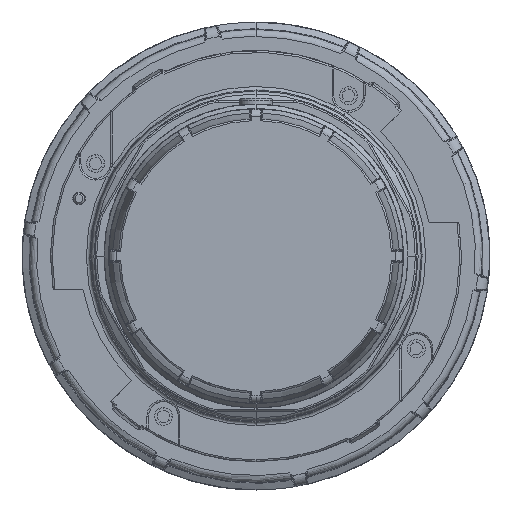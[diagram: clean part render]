
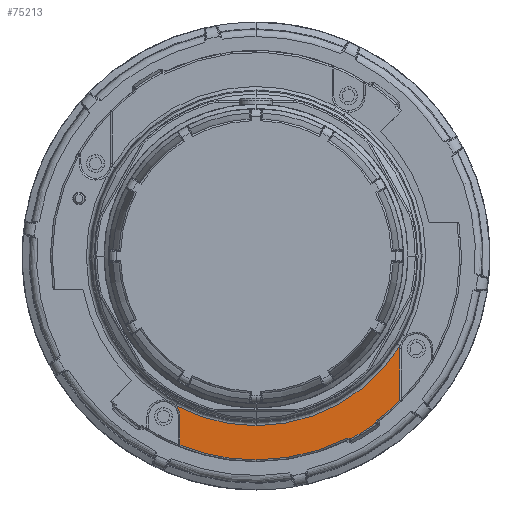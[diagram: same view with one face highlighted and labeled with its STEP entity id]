
A CAD part, front view. The second image highlights one B-rep face of the part: STEP entity #75213.
In plain terms, the highlighted planar face has unit normal (0, -1, 0).
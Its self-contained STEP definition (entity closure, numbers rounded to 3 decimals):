
#2304 = DIRECTION ( 'NONE',  ( 0., -1., 0. ) ) ;
#3329 = DIRECTION ( 'NONE',  ( 0., -1., 0. ) ) ;
#3797 = DIRECTION ( 'NONE',  ( 0., 0., -1. ) ) ;
#4226 = ORIENTED_EDGE ( 'NONE', *, *, #51097, .T. ) ;
#4499 = CARTESIAN_POINT ( 'NONE',  ( 104.517, 36.826, -847.65 ) ) ;
#5083 = AXIS2_PLACEMENT_3D ( 'NONE', #89767, #3329, #32307 ) ;
#5211 = CARTESIAN_POINT ( 'NONE',  ( 83.167, 36.826, -853.457 ) ) ;
#5373 = EDGE_CURVE ( 'NONE', #53689, #92844, #32498, .T. ) ;
#5801 = CARTESIAN_POINT ( 'NONE',  ( 138.192, 36.826, -846.738 ) ) ;
#5807 = DIRECTION ( 'NONE',  ( 0., 0., 1. ) ) ;
#6050 = CARTESIAN_POINT ( 'NONE',  ( 130.927, 36.826, -851.309 ) ) ;
#6216 = CARTESIAN_POINT ( 'NONE',  ( 149.551, 36.826, -826. ) ) ;
#6363 = CARTESIAN_POINT ( 'NONE',  ( 145.019, 36.829, -825.182 ) ) ;
#6377 = AXIS2_PLACEMENT_3D ( 'NONE', #6216, #53611, #37484 ) ;
#6555 = CIRCLE ( 'NONE', #5083, 57.25 ) ;
#7099 = CARTESIAN_POINT ( 'NONE',  ( 82.052, 36.829, -842.043 ) ) ;
#7939 = CIRCLE ( 'NONE', #62501, 57.25 ) ;
#8385 = B_SPLINE_CURVE_WITH_KNOTS ( 'NONE', 3,
 ( #42789, #70809, #19603, #5801 ),
 .UNSPECIFIED., .F., .F.,
 ( 4, 4 ),
 ( 0., 1. ),
 .UNSPECIFIED. ) ;
#10020 = CARTESIAN_POINT ( 'NONE',  ( 138.192, 36.826, -846.738 ) ) ;
#10781 = ORIENTED_EDGE ( 'NONE', *, *, #16995, .T. ) ;
#10885 = DIRECTION ( 'NONE',  ( 0., 0., -1. ) ) ;
#11165 = EDGE_CURVE ( 'NONE', #34497, #51771, #6555, .T. ) ;
#11248 = ORIENTED_EDGE ( 'NONE', *, *, #33750, .T. ) ;
#12799 = LINE ( 'NONE', #5211, #59539 ) ;
#13165 = DIRECTION ( 'NONE',  ( 0., -1., 0. ) ) ;
#13620 = DIRECTION ( 'NONE',  ( 0., 1., 0. ) ) ;
#14562 = DIRECTION ( 'NONE',  ( 0., 0., -1. ) ) ;
#14805 = B_SPLINE_CURVE_WITH_KNOTS ( 'NONE', 3,
 ( #56334, #49233, #6050, #92924 ),
 .UNSPECIFIED., .F., .F.,
 ( 4, 4 ),
 ( 0., 1. ),
 .UNSPECIFIED. ) ;
#14807 = AXIS2_PLACEMENT_3D ( 'NONE', #60291, #25171, #3797 ) ;
#16290 = VERTEX_POINT ( 'NONE', #89040 ) ;
#16995 = EDGE_CURVE ( 'NONE', #46493, #65040, #43334, .T. ) ;
#18091 = CARTESIAN_POINT ( 'NONE',  ( 138.279, 36.826, -846.235 ) ) ;
#18952 = FACE_OUTER_BOUND ( 'NONE', #46412, .T. ) ;
#18955 = B_SPLINE_CURVE_WITH_KNOTS ( 'NONE', 3,
 ( #10020, #69338, #83104, #18091 ),
 .UNSPECIFIED., .F., .F.,
 ( 4, 4 ),
 ( 0., 1. ),
 .UNSPECIFIED. ) ;
#19168 = DIRECTION ( 'NONE',  ( 0., 1., 0. ) ) ;
#19603 = CARTESIAN_POINT ( 'NONE',  ( 138.18, 36.826, -846.809 ) ) ;
#19889 = DIRECTION ( 'NONE',  ( 0., 1., 0. ) ) ;
#20889 = CARTESIAN_POINT ( 'NONE',  ( 104.517, 36.826, -800. ) ) ;
#21556 = CIRCLE ( 'NONE', #6377, 4.65 ) ;
#22748 = DIRECTION ( 'NONE',  ( 0., 0., -1. ) ) ;
#24135 = CARTESIAN_POINT ( 'NONE',  ( 104.517, 36.826, -857.25 ) ) ;
#24733 = CARTESIAN_POINT ( 'NONE',  ( 130.626, 36.826, -851.216 ) ) ;
#25171 = DIRECTION ( 'NONE',  ( 0., -1., 0. ) ) ;
#26205 = EDGE_CURVE ( 'NONE', #43919, #53689, #21556, .T. ) ;
#27328 = CIRCLE ( 'NONE', #80387, 57.25 ) ;
#28424 = ORIENTED_EDGE ( 'NONE', *, *, #49462, .T. ) ;
#29233 = EDGE_CURVE ( 'NONE', #65040, #16290, #12799, .T. ) ;
#31295 = VECTOR ( 'NONE', #5807, 1000. ) ;
#32307 = DIRECTION ( 'NONE',  ( 0., 0., -1. ) ) ;
#32498 = CIRCLE ( 'NONE', #67392, 47.65 ) ;
#33735 = CARTESIAN_POINT ( 'NONE',  ( 144.901, 36.826, -826. ) ) ;
#33750 = EDGE_CURVE ( 'NONE', #34159, #43919, #84624, .T. ) ;
#34070 = ORIENTED_EDGE ( 'NONE', *, *, #72686, .T. ) ;
#34159 = VERTEX_POINT ( 'NONE', #76908 ) ;
#34497 = VERTEX_POINT ( 'NONE', #24135 ) ;
#35043 = ORIENTED_EDGE ( 'NONE', *, *, #11165, .T. ) ;
#37357 = EDGE_CURVE ( 'NONE', #49497, #40763, #8385, .T. ) ;
#37484 = DIRECTION ( 'NONE',  ( 0., 0., -1. ) ) ;
#38988 = CARTESIAN_POINT ( 'NONE',  ( 130.302, 36.826, -851.115 ) ) ;
#39318 = CARTESIAN_POINT ( 'NONE',  ( 130.788, 36.826, -851.266 ) ) ;
#40763 = VERTEX_POINT ( 'NONE', #86891 ) ;
#41650 = VERTEX_POINT ( 'NONE', #73154 ) ;
#42789 = CARTESIAN_POINT ( 'NONE',  ( 138.155, 36.826, -846.952 ) ) ;
#43334 = CIRCLE ( 'NONE', #93429, 4.65 ) ;
#43582 = CIRCLE ( 'NONE', #14807, 57.758 ) ;
#43919 = VERTEX_POINT ( 'NONE', #33735 ) ;
#45888 = VERTEX_POINT ( 'NONE', #50512 ) ;
#46412 = EDGE_LOOP ( 'NONE', ( #89735, #58599, #4226, #10781, #77993, #34070, #35043, #88230, #86424, #28424, #47400, #84349, #85538, #11248 ) ) ;
#46493 = VERTEX_POINT ( 'NONE', #7099 ) ;
#47400 = ORIENTED_EDGE ( 'NONE', *, *, #37357, .T. ) ;
#48740 = DIRECTION ( 'NONE',  ( 0., 0., -1. ) ) ;
#48859 = DIRECTION ( 'NONE',  ( 0., 0., -1. ) ) ;
#49233 = CARTESIAN_POINT ( 'NONE',  ( 130.858, 36.826, -851.288 ) ) ;
#49462 = EDGE_CURVE ( 'NONE', #45888, #49497, #43582, .T. ) ;
#49497 = VERTEX_POINT ( 'NONE', #55068 ) ;
#50512 = CARTESIAN_POINT ( 'NONE',  ( 130.996, 36.826, -851.331 ) ) ;
#51097 = EDGE_CURVE ( 'NONE', #92844, #46493, #78553, .T. ) ;
#51771 = VERTEX_POINT ( 'NONE', #82328 ) ;
#51988 = AXIS2_PLACEMENT_3D ( 'NONE', #76829, #2304, #69246 ) ;
#53123 = PLANE ( 'NONE',  #51988 ) ;
#53611 = DIRECTION ( 'NONE',  ( 0., 1., 0. ) ) ;
#53689 = VERTEX_POINT ( 'NONE', #6363 ) ;
#55068 = CARTESIAN_POINT ( 'NONE',  ( 138.155, 36.826, -846.952 ) ) ;
#55212 = DIRECTION ( 'NONE',  ( 0., 0., -1. ) ) ;
#55414 = B_SPLINE_CURVE_WITH_KNOTS ( 'NONE', 3,
 ( #38988, #89795, #24733, #39318 ),
 .UNSPECIFIED., .F., .F.,
 ( 4, 4 ),
 ( 0., 1. ),
 .UNSPECIFIED. ) ;
#56334 = CARTESIAN_POINT ( 'NONE',  ( 130.788, 36.826, -851.266 ) ) ;
#58599 = ORIENTED_EDGE ( 'NONE', *, *, #5373, .T. ) ;
#59539 = VECTOR ( 'NONE', #48859, 1000. ) ;
#60291 = CARTESIAN_POINT ( 'NONE',  ( 104.517, 36.826, -800. ) ) ;
#62501 = AXIS2_PLACEMENT_3D ( 'NONE', #20889, #81116, #22748 ) ;
#62591 = CARTESIAN_POINT ( 'NONE',  ( 104.517, 36.826, -800. ) ) ;
#63257 = CARTESIAN_POINT ( 'NONE',  ( 104.517, 36.826, -800. ) ) ;
#63735 = CARTESIAN_POINT ( 'NONE',  ( 83.167, 36.826, -845.033 ) ) ;
#65040 = VERTEX_POINT ( 'NONE', #63735 ) ;
#67392 = AXIS2_PLACEMENT_3D ( 'NONE', #63257, #19168, #55212 ) ;
#69246 = DIRECTION ( 'NONE',  ( 0., 0., -1. ) ) ;
#69338 = CARTESIAN_POINT ( 'NONE',  ( 138.221, 36.826, -846.57 ) ) ;
#70809 = CARTESIAN_POINT ( 'NONE',  ( 138.168, 36.826, -846.88 ) ) ;
#71005 = EDGE_CURVE ( 'NONE', #41650, #45888, #14805, .T. ) ;
#72414 = EDGE_CURVE ( 'NONE', #51771, #41650, #55414, .T. ) ;
#72686 = EDGE_CURVE ( 'NONE', #16290, #34497, #27328, .T. ) ;
#73154 = CARTESIAN_POINT ( 'NONE',  ( 130.788, 36.826, -851.266 ) ) ;
#73567 = EDGE_CURVE ( 'NONE', #40763, #84512, #18955, .T. ) ;
#74964 = EDGE_CURVE ( 'NONE', #84512, #34159, #7939, .T. ) ;
#75213 = ADVANCED_FACE ( 'NONE', ( #18952 ), #53123, .T. ) ;
#76829 = CARTESIAN_POINT ( 'NONE',  ( 46.767, 36.826, -800. ) ) ;
#76908 = CARTESIAN_POINT ( 'NONE',  ( 144.901, 36.826, -840.58 ) ) ;
#77993 = ORIENTED_EDGE ( 'NONE', *, *, #29233, .T. ) ;
#78553 = CIRCLE ( 'NONE', #90725, 47.65 ) ;
#80387 = AXIS2_PLACEMENT_3D ( 'NONE', #92913, #13165, #14562 ) ;
#81116 = DIRECTION ( 'NONE',  ( 0., -1., 0. ) ) ;
#82328 = CARTESIAN_POINT ( 'NONE',  ( 130.302, 36.826, -851.115 ) ) ;
#83104 = CARTESIAN_POINT ( 'NONE',  ( 138.25, 36.826, -846.403 ) ) ;
#83385 = CARTESIAN_POINT ( 'NONE',  ( 138.279, 36.826, -846.235 ) ) ;
#84349 = ORIENTED_EDGE ( 'NONE', *, *, #73567, .T. ) ;
#84512 = VERTEX_POINT ( 'NONE', #83385 ) ;
#84624 = LINE ( 'NONE', #91749, #31295 ) ;
#85538 = ORIENTED_EDGE ( 'NONE', *, *, #74964, .T. ) ;
#86424 = ORIENTED_EDGE ( 'NONE', *, *, #71005, .T. ) ;
#86891 = CARTESIAN_POINT ( 'NONE',  ( 138.192, 36.826, -846.738 ) ) ;
#88230 = ORIENTED_EDGE ( 'NONE', *, *, #72414, .T. ) ;
#89040 = CARTESIAN_POINT ( 'NONE',  ( 83.167, 36.826, -853.12 ) ) ;
#89735 = ORIENTED_EDGE ( 'NONE', *, *, #26205, .T. ) ;
#89767 = CARTESIAN_POINT ( 'NONE',  ( 104.517, 36.826, -800. ) ) ;
#89795 = CARTESIAN_POINT ( 'NONE',  ( 130.464, 36.826, -851.165 ) ) ;
#90725 = AXIS2_PLACEMENT_3D ( 'NONE', #62591, #19889, #10885 ) ;
#91749 = CARTESIAN_POINT ( 'NONE',  ( 144.901, 36.826, -826. ) ) ;
#92844 = VERTEX_POINT ( 'NONE', #4499 ) ;
#92897 = CARTESIAN_POINT ( 'NONE',  ( 78.517, 36.826, -845.033 ) ) ;
#92913 = CARTESIAN_POINT ( 'NONE',  ( 104.517, 36.826, -800. ) ) ;
#92924 = CARTESIAN_POINT ( 'NONE',  ( 130.996, 36.826, -851.331 ) ) ;
#93429 = AXIS2_PLACEMENT_3D ( 'NONE', #92897, #13620, #48740 ) ;
